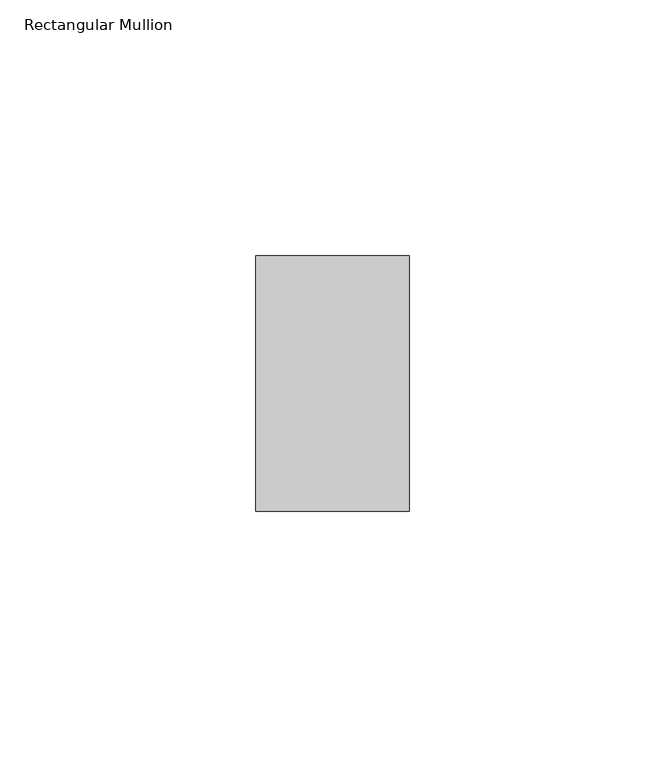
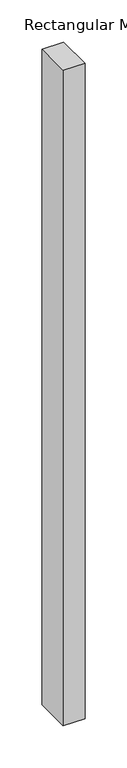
"""IFC4 building model written with IfcOpenShell, lengths in millimetres: member geometry, Rectangular Mullion : ARQ_REJA_MULL_50x30mm."""

from ifc_helpers import new_model, si_unit, frame, origin, place, context, project, spatial, polyline, outline, extrude, source, transform, mapped, element, save


def rectangular_mullion_c9c61bd4(model_context):
    return source(origin(), model_context, "Body", "SweptSolid", [
        extrude(outline(polyline([(0.0, 25.0), (0.0, -25.0), (-30.0, -25.0), (-30.0, 25.0), (0.0, 25.0)])), frame((0.0, 0.0, -950.7639764), z_axis=(0.0, 0.0, 1.0), x_axis=(1.0, 0.0, 0.0)), (0.0, 0.0, 1.0), 950.7639764),
    ])


if __name__ == "__main__":
    model = new_model("IFC4")
    model_context = context("Model", 3, world=origin())
    ifc_project = project(units=[si_unit("LENGTHUNIT", "METRE", prefix="MILLI")], contexts=[model_context])
    site = spatial("IfcSite", under=ifc_project)
    building = spatial("IfcBuilding", under=site)
    placement = place(None, origin())
    rectangular_mullion_shape = rectangular_mullion_c9c61bd4(model_context)
    element("IfcMember", 1, ObjectType="Rectangular Mullion : ARQ_REJA_MULL_50x30mm", at=placement, inside=building, context=model_context, shape_type="MappedRepresentation", body=[
        mapped(rectangular_mullion_shape, transform((0.0, 0.0, 0.0), x_axis=(1.0, 0.0, 0.0), y_axis=(0.0, 1.0, 0.0), z_axis=(0.0, 0.0, 1.0))),
    ])
    save(model, "model.ifc")
